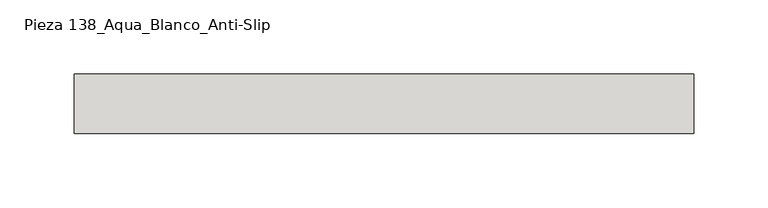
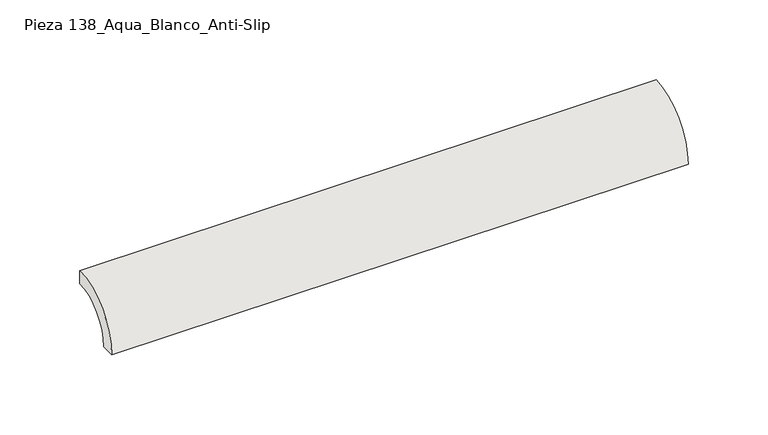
"""IFC4 building model written with IfcOpenShell, lengths in millimetres: slab geometry, ROSA GRES_138 : Pieza 138_Aqua_Blanco_Anti-Slip."""

from ifc_helpers import new_model, si_unit, point, frame, frame_2d, origin, origin_2d, place, context, project, spatial, polyline, circle_curve, trimmed, segment, composite_curve, outline, extrude, source, transform, mapped, element, save


def pieza_138_aqua_blanco_anti_slip_f5c42180(model_context):
    return source(origin(), model_context, "Body", "SweptSolid", [
        extrude(outline(composite_curve([segment(polyline([(0.0, 40.0), (0.0, 30.0265886)]), True, "CONTINUOUS"), segment(trimmed(circle_curve(frame_2d((-0.0044453, 0.0044453)), 30.0221435), [point((0.0, 30.0265886))], [point((-30.0265886, 0.0))], True, "CARTESIAN"), True, "CONTINUOUS"), segment(polyline([(-30.0265886, 0.0), (-40.0, 0.0)]), True, "CONTINUOUS"), segment(trimmed(circle_curve(origin_2d(), 40.0), [point((-40.0, 0.0))], [point((0.0, 40.0))], False, "CARTESIAN"), True, "CONTINUOUS")], self_intersect=False)), frame((0.0, 0.0, 0.0), z_axis=(1.0, 0.0, 0.0), x_axis=(0.0, 1.0, 0.0)), (0.0, 0.0, 1.0), 416.2548743),
    ])


if __name__ == "__main__":
    model = new_model("IFC4")
    model_context = context("Model", 3, world=origin())
    ifc_project = project(units=[si_unit("LENGTHUNIT", "METRE", prefix="MILLI")], contexts=[model_context])
    site = spatial("IfcSite", under=ifc_project)
    building = spatial("IfcBuilding", under=site)
    placement = place(None, origin())
    pieza_138_aqua_blanco_anti_slip_shape = pieza_138_aqua_blanco_anti_slip_f5c42180(model_context)
    element("IfcSlab", 1, ObjectType="ROSA GRES_138 : Pieza 138_Aqua_Blanco_Anti-Slip", at=placement, inside=building, context=model_context, shape_type="MappedRepresentation", body=[
        mapped(pieza_138_aqua_blanco_anti_slip_shape, transform((0.0, 0.0, 0.0), x_axis=(1.0, 0.0, 0.0), y_axis=(0.0, 1.0, 0.0), z_axis=(0.0, 0.0, 1.0))),
    ])
    save(model, "model.ifc")
